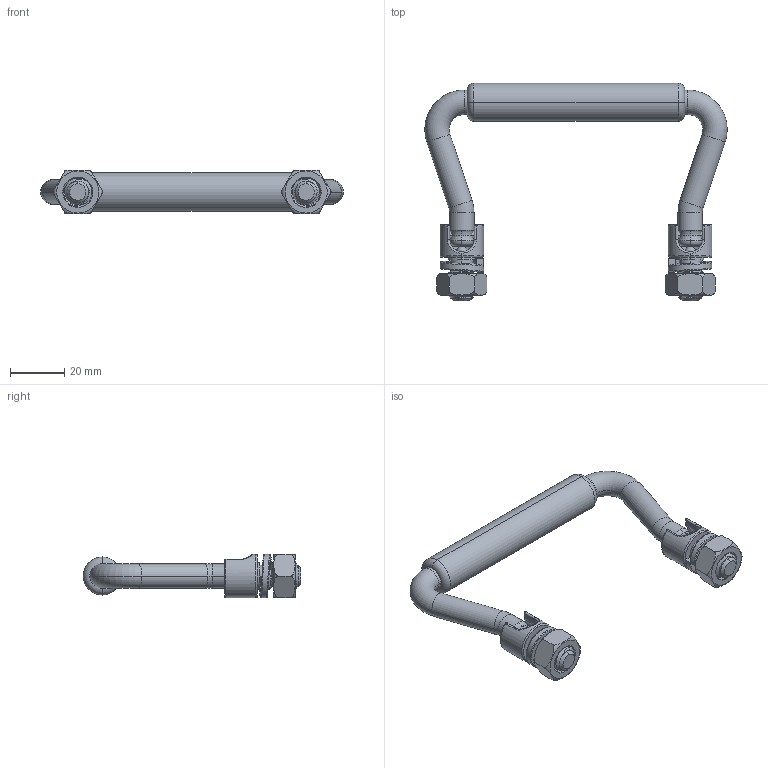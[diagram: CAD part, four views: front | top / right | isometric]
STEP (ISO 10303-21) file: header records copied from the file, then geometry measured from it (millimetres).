
FILE_DESCRIPTION (( 'STEP AP214' ), '1' );
FILE_NAME ('LS024.STEP', '2023-06-28T01:45:21', ( 'Windows 蚚誧' ), ( '' ), 'SwSTEP 2.0', 'SolidWorks 2019', '' );
FILE_SCHEMA (( 'AUTOMOTIVE_DESIGN' ));
Length unit declared in the file: millimetre
Products named in the file (1): LS024
Bounding box: 111.24 x 80 x 16 mm (x, y, z)
Volume: 27262.5 mm3; surface area: 18549.9 mm2
Topology: 8 solids, 8 shells, 240 faces, 616 edges, 384 vertices
Faces by surface type: cylinder 86, torus 48, bspline 44, plane 42, cone 12, sphere 8
Entity records: 23817 total; most frequent: CARTESIAN_POINT 15919, ORIENTED_EDGE 1200, DIRECTION 984, EDGE_CURVE 600, AXIS2_PLACEMENT_3D 425, VERTEX_POINT 380, EDGE_LOOP 258, UNCERTAINTY_MEASURE_WITH_UNIT 240
